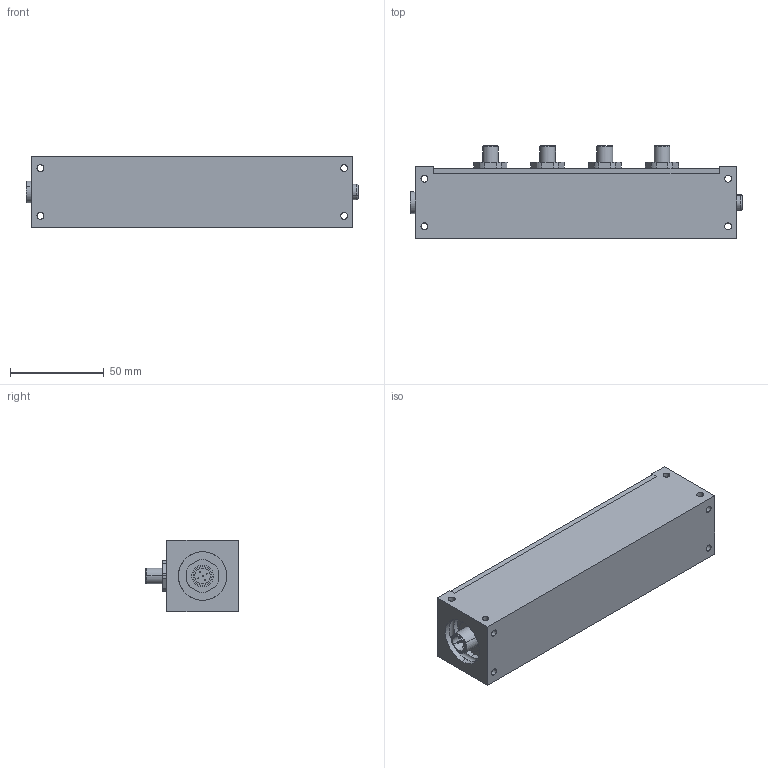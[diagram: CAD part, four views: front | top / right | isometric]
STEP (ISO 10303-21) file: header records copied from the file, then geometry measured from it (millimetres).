
FILE_DESCRIPTION (( 'STEP AP214' ), '1' );
FILE_NAME ('J-LX5-CE.STEP', '2019-02-08T15:09:37', ( '' ), ( '' ), 'SwSTEP 2.0', 'SolidWorks 2018', '' );
FILE_SCHEMA (( 'AUTOMOTIVE_DESIGN' ));
Length unit declared in the file: inch
Products named in the file (5): J-LX5-CE Lid; J-LX5-CE; J-LX5-CE Box; Female Connector; Male Connector
Assembly tree (8 placements, depth 2):
  J-LX5-CE
    J-LX5-CE Box
    J-LX5-CE Lid
    Male Connector
    Female Connector  x5
Bounding box: 177.04 x 49.4 x 38.1 mm (x, y, z)
Volume: 131516.7 mm3; surface area: 59577.6 mm2
Topology: 13 solids, 13 shells, 387 faces, 984 edges, 615 vertices
Faces by surface type: cylinder 218, plane 121, cone 24, torus 14, sphere 10
Entity records: 9411 total; most frequent: CARTESIAN_POINT 2111, DIRECTION 1290, ORIENTED_EDGE 1272, EDGE_CURVE 636, AXIS2_PLACEMENT_3D 496, VERTEX_POINT 397, EDGE_LOOP 309, VECTOR 298
